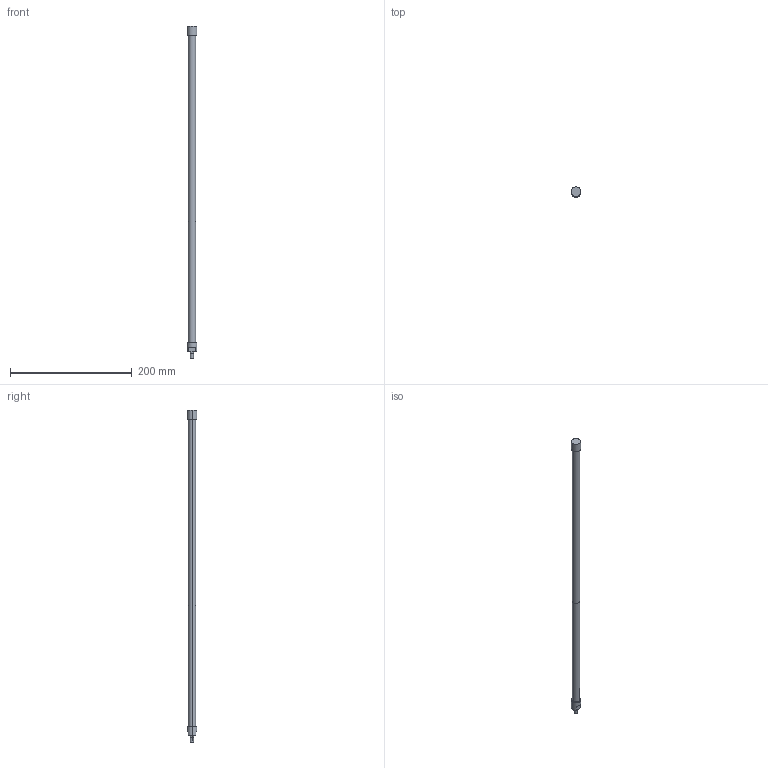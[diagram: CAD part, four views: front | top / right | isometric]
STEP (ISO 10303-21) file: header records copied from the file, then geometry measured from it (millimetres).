
FILE_DESCRIPTION(('STEP AP214'),'1');
FILE_NAME('ETT-R025M545.stp','2015-02-04T08:15:10',(' '),(' '),'Spatial InterOp 3D',' ',' ');
FILE_SCHEMA(('automotive_design'));
Length unit declared in the file: metre
Products named in the file (2): 1; 2
Bounding box: 16 x 16 x 546 mm (x, y, z)
Volume: 44311.8 mm3; surface area: 28480.3 mm2
Topology: 1 solids, 5 shells, 24 faces, 56 edges, 42 vertices
Faces by surface type: cylinder 12, plane 12
Entity records: 952 total; most frequent: DIRECTION 142, CARTESIAN_POINT 124, ORIENTED_EDGE 100, AXIS2_PLACEMENT_3D 60, EDGE_CURVE 56, VERTEX_POINT 42, CIRCLE 34, EDGE_LOOP 28
